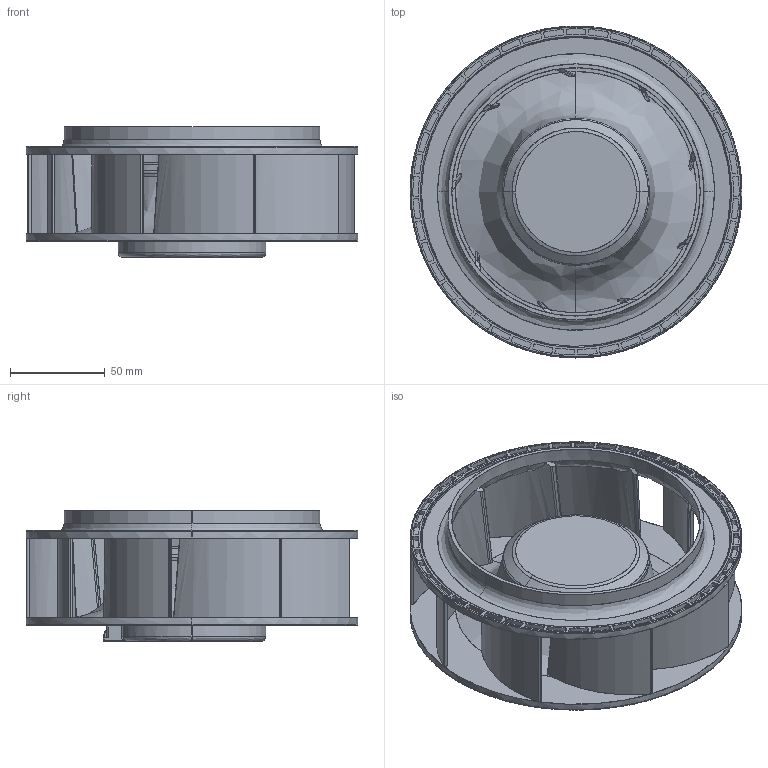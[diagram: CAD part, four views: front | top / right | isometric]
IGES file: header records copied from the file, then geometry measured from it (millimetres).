
Start section: SolidWorks IGES file using analytic representation for surfaces
Global section: file name: C:\Solid Works\4200\φ175遠心\顧客提出用\フルバージョン\17569TG.IGS; native system: SolidWorks 2017; preprocessor: SolidWorks 2017; author: Miyabara-Yoshinori; date: 170330.195942; units: millimetre
Bounding box: 175 x 175 x 69 mm (x, y, z)
Surface area: 145414.4 mm2 (no closed solid volume)
Topology: 0 solids, 0 shells, 1257 faces, 11727 edges, 11721 vertices
Faces by surface type: revolution 795, bspline 462
